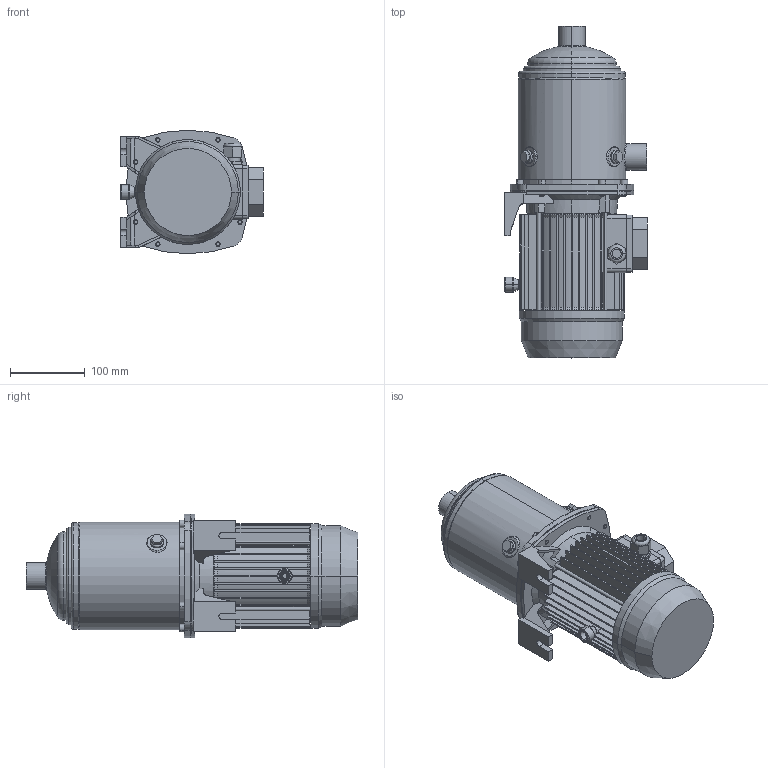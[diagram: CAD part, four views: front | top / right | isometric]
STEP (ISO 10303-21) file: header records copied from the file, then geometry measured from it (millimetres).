
FILE_DESCRIPTION((''),'2;1');
FILE_NAME('MATRIX_3-6T_0_9_IE2_ASM','2011-10-10T',('Utente'),('"Ebara Pumps Europe +39.444.706811"'),'PRO/ENGINEER BY PARAMETRIC TECHNOLOGY CORPORATION, 2009360','PRO/ENGINEER BY PARAMETRIC TECHNOLOGY CORPORATION, 2009360','');
FILE_SCHEMA(('AUTOMOTIVE_DESIGN { 1 0 10303 214 1 1 1 1 }'));
Length unit declared in the file: millimetre
Products named in the file (5): CORPO_POMPA_MATRIX_3-6; SUPPORTO_MATRIX_MEC_71; MEC_71X110_IE2; 72228; MATRIX_3-6T_0_9_IE2_ASM
Assembly tree (4 placements, depth 2):
  MATRIX_3-6T_0_9_IE2_ASM
    CORPO_POMPA_MATRIX_3-6
    SUPPORTO_MATRIX_MEC_71
    MEC_71X110_IE2
    72228
Bounding box: 191 x 443.8 x 165 mm (x, y, z)
Volume: 4786388.4 mm3; surface area: 513515.6 mm2
Topology: 4 solids, 4 shells, 679 faces, 1638 edges, 1014 vertices
Faces by surface type: plane 355, cylinder 184, cone 108, torus 28, sphere 2, bspline 2
Entity records: 26514 total; most frequent: CARTESIAN_POINT 4530, DIRECTION 3472, ORIENTED_EDGE 3276, EDGE_CURVE 1638, PRESENTATION_STYLE_ASSIGNMENT 1591, STYLED_ITEM 1591, CURVE_STYLE 1588, AXIS2_PLACEMENT_3D 1326
